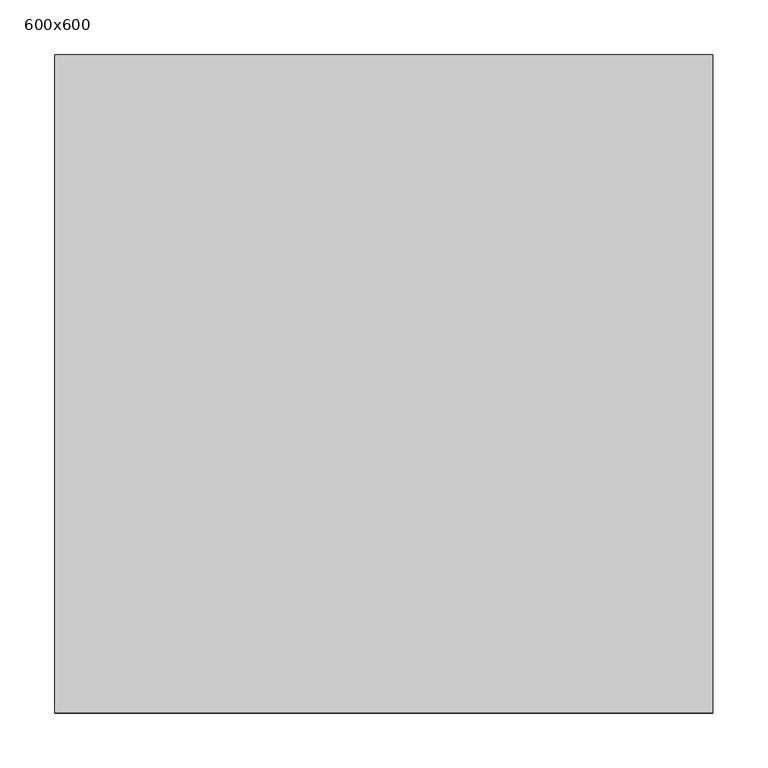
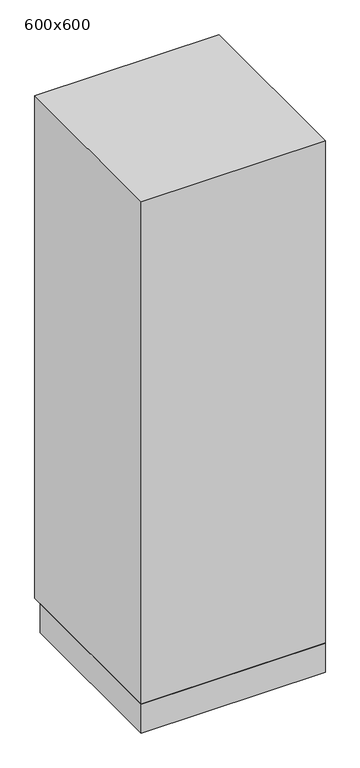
"""IFC4 building model written with IfcOpenShell, lengths in millimetres: proxy geometry, Eq_холодильник_LEG : 600x600."""

from ifc_helpers import new_model, si_unit, frame, origin, place, context, project, spatial, polyline, outline, extrude, source, transform, mapped, element, save


def proxy_600x600_81ef8736(model_context):
    return source(origin(), model_context, "Body", "SweptSolid", [
        extrude(outline(polyline([(0.0, 0.0), (-600.0, 0.0), (-600.0, 570.0), (0.0, 570.0), (0.0, 0.0)])), frame((0.0, 0.0, -43.2), z_axis=(0.0, 0.0, 1.0), x_axis=(1.0, 0.0, 0.0)), (0.0, 0.0, 1.0), 100.0),
        extrude(outline(polyline([(0.0, 600.0), (0.0, 0.0), (-600.0, 0.0), (-600.0, 600.0), (0.0, 600.0)])), frame((0.0, 0.0, 56.8), z_axis=(0.0, 0.0, 1.0), x_axis=(1.0, 0.0, 0.0)), (0.0, 0.0, 1.0), 1730.0),
    ])


if __name__ == "__main__":
    model = new_model("IFC4")
    model_context = context("Model", 3, world=origin())
    ifc_project = project(units=[si_unit("LENGTHUNIT", "METRE", prefix="MILLI")], contexts=[model_context])
    site = spatial("IfcSite", under=ifc_project)
    building = spatial("IfcBuilding", under=site)
    placement = place(None, origin())
    proxy_600x600_shape = proxy_600x600_81ef8736(model_context)
    element("IfcBuildingElementProxy", 1, Name="Eq_холодильник_LEG : 600x600", ObjectType="Eq_холодильник_LEG : 600x600", at=placement, inside=building, context=model_context, shape_type="MappedRepresentation", body=[
        mapped(proxy_600x600_shape, transform((0.0, 0.0, 0.0), x_axis=(1.0, 0.0, 0.0), y_axis=(0.0, 1.0, 0.0), z_axis=(0.0, 0.0, 1.0))),
    ])
    save(model, "model.ifc")
